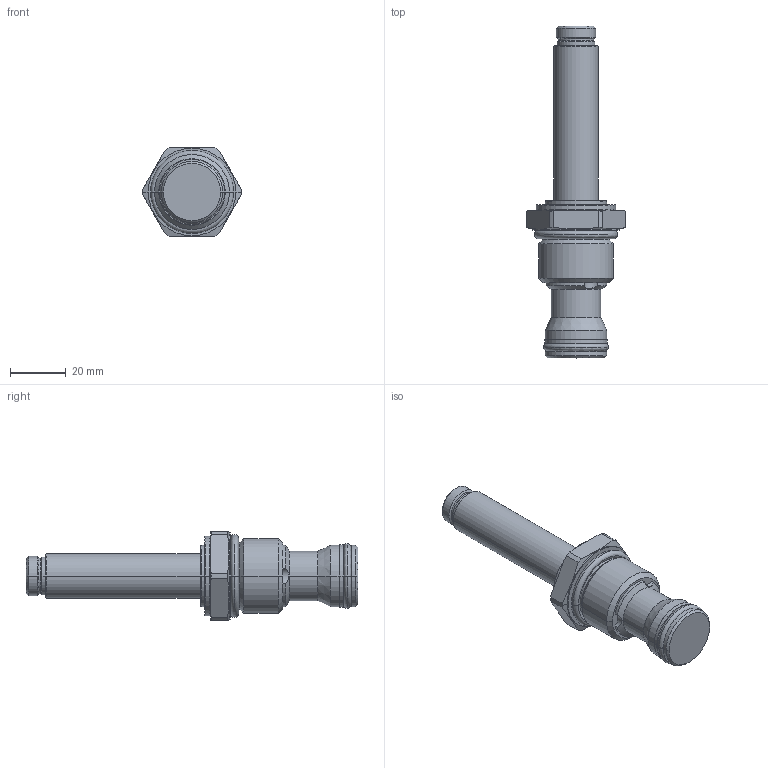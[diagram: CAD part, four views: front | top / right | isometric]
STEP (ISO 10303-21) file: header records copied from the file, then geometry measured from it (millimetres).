
FILE_DESCRIPTION((''),'2;1');
FILE_NAME('5122255_SW0001','2009-03-25T',('JCS'),(''),'PRO/ENGINEER BY PARAMETRIC TECHNOLOGY CORPORATION, 2008510','PRO/ENGINEER BY PARAMETRIC TECHNOLOGY CORPORATION, 2008510','');
FILE_SCHEMA(('CONFIG_CONTROL_DESIGN'));
Length unit declared in the file: inch
Products named in the file (1): 5122255_SW0001
Bounding box: 35.69 x 119.57 x 31.75 mm (x, y, z)
Volume: 39497.3 mm3; surface area: 11158.7 mm2
Topology: 3 solids, 3 shells, 126 faces, 276 edges, 160 vertices
Faces by surface type: cylinder 40, cone 38, plane 16, torus 16, revolution 16
Entity records: 3829 total; most frequent: CARTESIAN_POINT 985, DIRECTION 628, ORIENTED_EDGE 552, EDGE_CURVE 276, AXIS2_PLACEMENT_3D 264, VERTEX_POINT 160, CIRCLE 154, EDGE_LOOP 134
